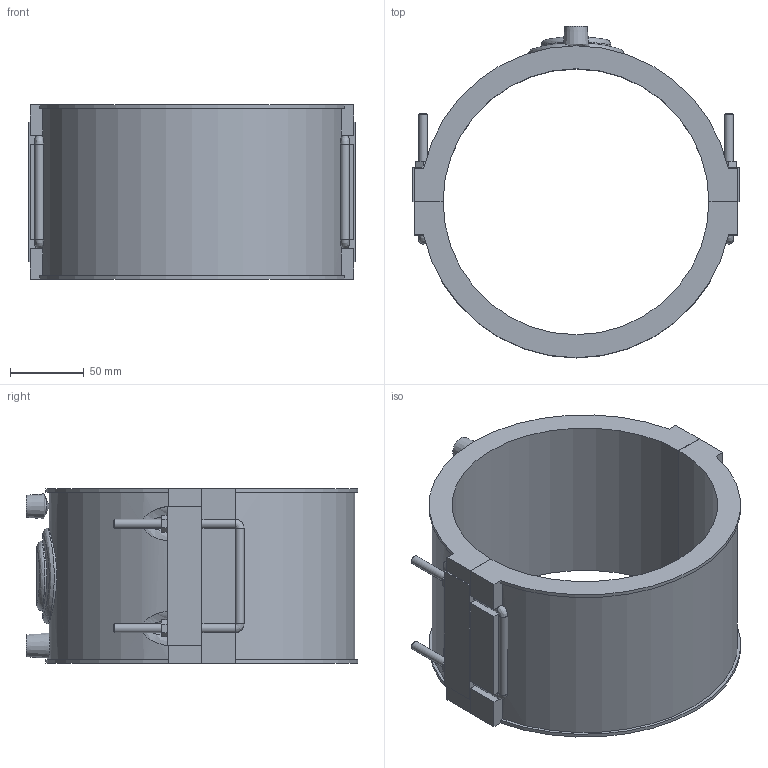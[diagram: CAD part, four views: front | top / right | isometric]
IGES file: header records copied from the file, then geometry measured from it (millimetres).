
Global section: file name: 495204180.ipt; native system: Autodesk Inventor 2015; preprocessor: unknown; author: KIM; date: 20171106.094232; units: millimetre
Bounding box: 221 x 224.57 x 118 mm (x, y, z)
Volume: 1082650 mm3; surface area: 190247.8 mm2
Topology: 2 solids, 2 shells, 139 faces, 357 edges, 225 vertices
Faces by surface type: plane 88, cylinder 23, revolution 12, bspline 10, cone 6
Full cylindrical faces by diameter (mm): 4 x2, 6 x10, 47.2 x1, 64.9 x1
